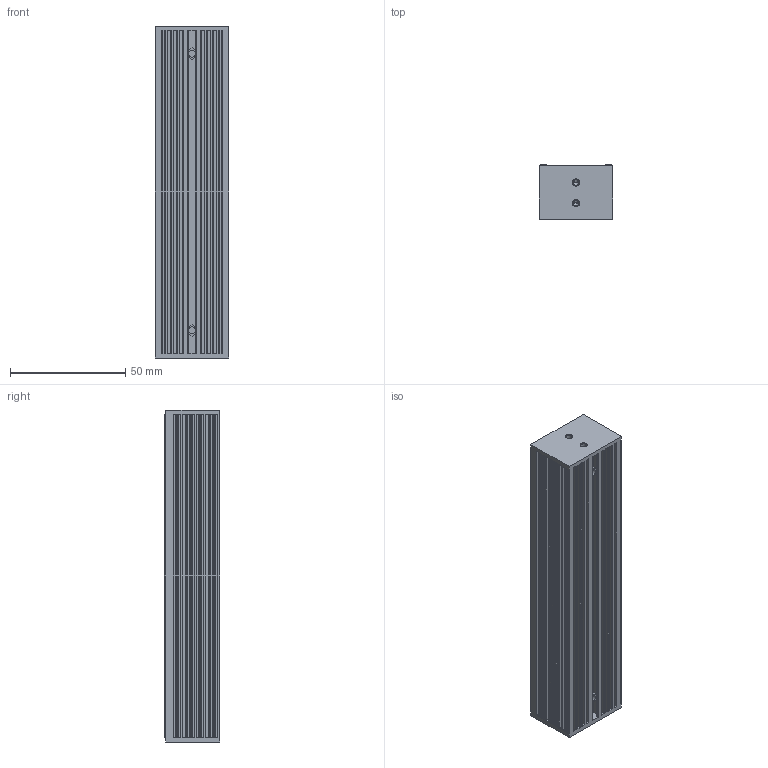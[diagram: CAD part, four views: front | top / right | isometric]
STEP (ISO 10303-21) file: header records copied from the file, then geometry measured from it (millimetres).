
FILE_DESCRIPTION((''),'2;1');
FILE_NAME('DSL32','2020-03-23T',('ASUS'),(''),'PRO/ENGINEER BY PARAMETRIC TECHNOLOGY CORPORATION, 2008380','PRO/ENGINEER BY PARAMETRIC TECHNOLOGY CORPORATION, 2008380','');
FILE_SCHEMA(('CONFIG_CONTROL_DESIGN'));
Length unit declared in the file: millimetre
Products named in the file (1): DSL32
Bounding box: 32 x 24 x 144 mm (x, y, z)
Volume: 97776.3 mm3; surface area: 33059.7 mm2
Topology: 1 solids, 5 shells, 305 faces, 780 edges, 512 vertices
Faces by surface type: plane 191, cylinder 94, cone 20
Entity records: 9205 total; most frequent: DIRECTION 1592, CARTESIAN_POINT 1590, ORIENTED_EDGE 1528, EDGE_CURVE 772, VECTOR 564, LINE 564, AXIS2_PLACEMENT_3D 514, VERTEX_POINT 512
